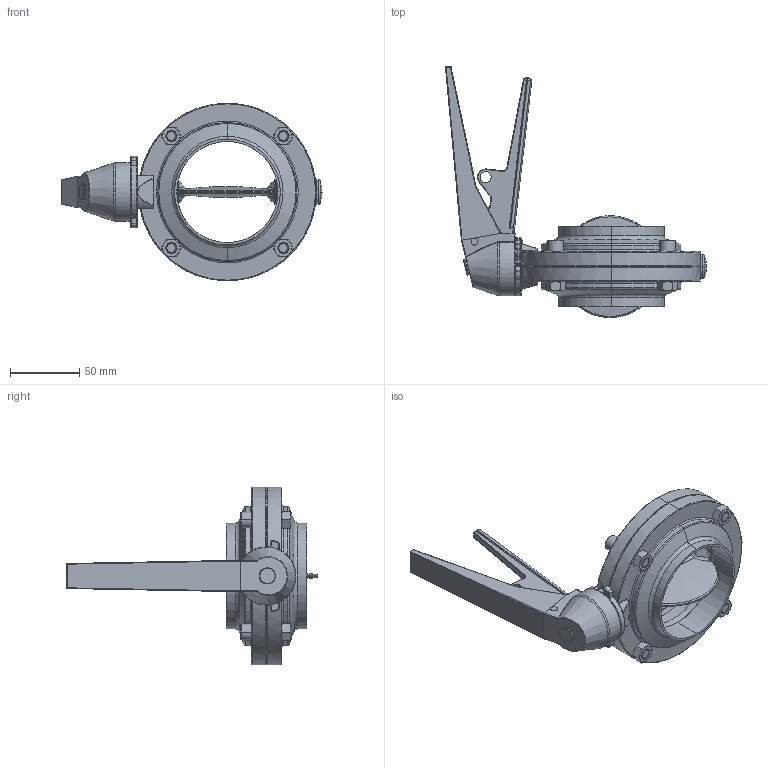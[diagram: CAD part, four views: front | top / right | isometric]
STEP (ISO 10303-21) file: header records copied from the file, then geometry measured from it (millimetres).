
FILE_DESCRIPTION (( 'STEP AP203' ), '1' );
FILE_NAME ('51W-LTH-3.0.STEP', '2025-06-12T03:19:04', ( '' ), ( '' ), 'SwSTEP 2.0', 'SolidWorks 2014', '' );
FILE_SCHEMA (( 'CONFIG_CONTROL_DESIGN' ));
Length unit declared in the file: millimetre
Products named in the file (25): 51-BVP-4-1.0-3.0; 51-BVP-20-2.0-4.0; 51-BVP-19-2.0-4.0; 51-BVP-STH-LOCK-0612; BFV-W BODY 3.0; 51-BVP-5B-1.0-3.0; 51-BVP-3-3.0; 51-BVP-7-3.0; 51W-LTH-3.0
Assembly tree (16 placements, depth 2):
  51-BVP-20-2.0-4.0
  51-BVP-20-2.0-4.0
  BFV-W BODY 3.0
  51-BVP-19-2.0-4.0
  51-BVP-5B-1.0-3.0
Bounding box: 187.96 x 180.57 x 128 mm (x, y, z)
Volume: 279580.8 mm3; surface area: 139983 mm2
Topology: 15 solids, 25 shells, 3278 faces, 8526 edges, 4788 vertices
Faces by surface type: cylinder 1650, plane 715, sphere 529, torus 172, bspline 134, cone 78
Entity records: 103085 total; most frequent: CARTESIAN_POINT 29178, DIRECTION 15965, ORIENTED_EDGE 14004, EDGE_CURVE 7604, AXIS2_PLACEMENT_3D 6254, VERTEX_POINT 4531, VECTOR 3457, LINE 3457
